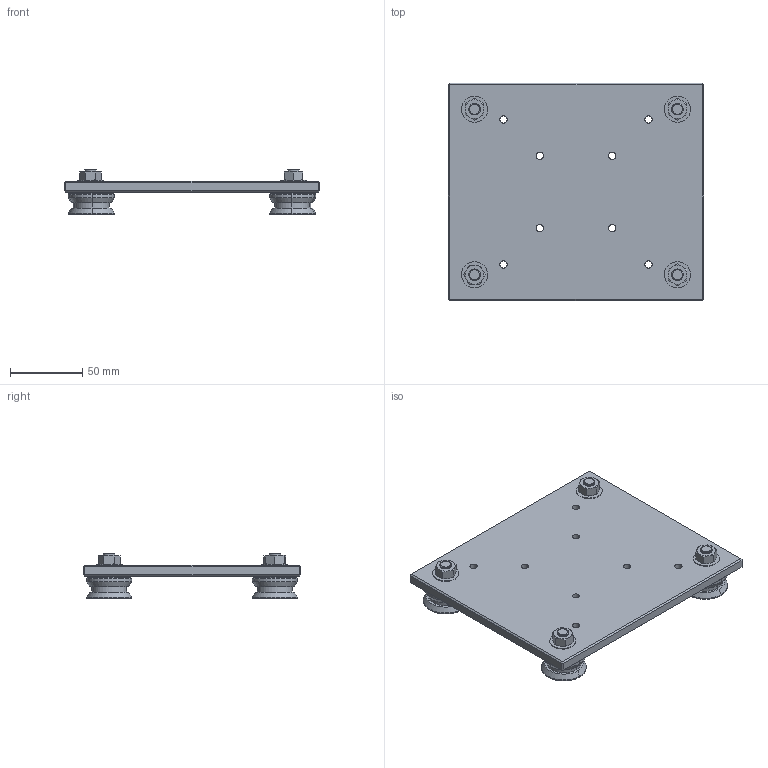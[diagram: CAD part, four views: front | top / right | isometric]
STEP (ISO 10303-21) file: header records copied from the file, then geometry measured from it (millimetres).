
FILE_DESCRIPTION (( 'STEP AP203' ), '1' );
FILE_NAME ('Laufwagen LW7.STEP', '2005-06-07T09:54:54', ( ' ' ), ( ' ' ), 'SwSTEP 2.0', 'SolidWorks 2005143', '' );
FILE_SCHEMA (( 'CONFIG_CONTROL_DESIGN' ));
Length unit declared in the file: millimetre
Products named in the file (1): Laufwagen LW7
Bounding box: 176 x 150 x 31.5 mm (x, y, z)
Volume: 241777.2 mm3; surface area: 71654.4 mm2
Topology: 1 solids, 5 shells, 294 faces, 632 edges, 384 vertices
Faces by surface type: plane 118, cone 88, cylinder 88
Entity records: 8373 total; most frequent: CARTESIAN_POINT 1855, DIRECTION 1390, ORIENTED_EDGE 1264, EDGE_CURVE 632, AXIS2_PLACEMENT_3D 559, VERTEX_POINT 384, EDGE_LOOP 354, FACE_OUTER_BOUND 294
